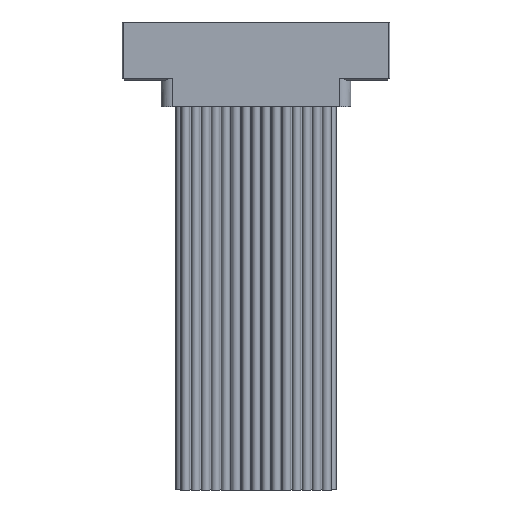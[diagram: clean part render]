
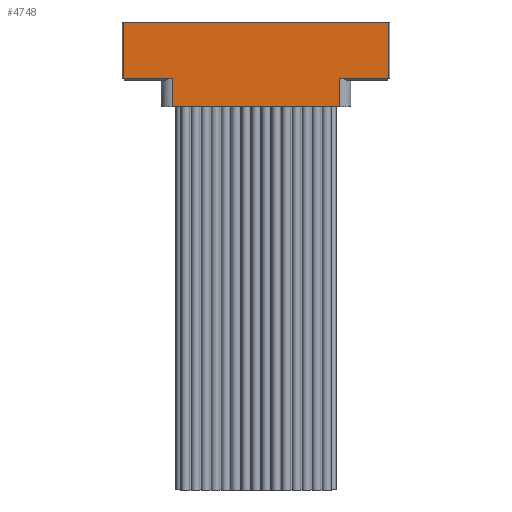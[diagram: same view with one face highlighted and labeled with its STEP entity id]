
A CAD part, front view. The second image highlights one B-rep face of the part: STEP entity #4748.
In plain terms, the highlighted planar face has unit normal (0, -1, 0).
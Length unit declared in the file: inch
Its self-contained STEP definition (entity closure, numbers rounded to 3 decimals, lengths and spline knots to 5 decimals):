
#612 = DIRECTION ( 'NONE',  ( -1., 0., 0. ) ) ;
#613 = CARTESIAN_POINT ( 'NONE',  ( 0.6625, -0.13, 0.235 ) ) ;
#1099 = DIRECTION ( 'NONE',  ( 0., 0., 1. ) ) ;
#1100 = DIRECTION ( 'NONE',  ( 0., -1., 0. ) ) ;
#1103 = PLANE ( 'NONE',  #15710 ) ;
#1106 = CARTESIAN_POINT ( 'NONE',  ( 0.6625, -0.13, 0.235 ) ) ;
#2554 = CARTESIAN_POINT ( 'NONE',  ( 0.414, -0.13, -0.184 ) ) ;
#2556 = CARTESIAN_POINT ( 'NONE',  ( -0.6575, -0.13, -0.053 ) ) ;
#2559 = DIRECTION ( 'NONE',  ( 0., 0., -1. ) ) ;
#2560 = CARTESIAN_POINT ( 'NONE',  ( 0.414, -0.13, -1.57829 ) ) ;
#2561 = DIRECTION ( 'NONE',  ( 0., 0., 1. ) ) ;
#2562 = CARTESIAN_POINT ( 'NONE',  ( 0.6625, -0.13, -0.043 ) ) ;
#2563 = DIRECTION ( 'NONE',  ( 1., 0., 0. ) ) ;
#2564 = CARTESIAN_POINT ( 'NONE',  ( 0.6575, -0.13, 0.235 ) ) ;
#2565 = DIRECTION ( 'NONE',  ( 0., 0., 1. ) ) ;
#2566 = CARTESIAN_POINT ( 'NONE',  ( 0.6625, -0.13, -0.043 ) ) ;
#2567 = DIRECTION ( 'NONE',  ( 1., 0., 0. ) ) ;
#2568 = CARTESIAN_POINT ( 'NONE',  ( -0.414, -0.13, -1.57829 ) ) ;
#2570 = DIRECTION ( 'NONE',  ( 0., 0., 1. ) ) ;
#2571 = DIRECTION ( 'NONE',  ( 1., 0., 0. ) ) ;
#3928 = CARTESIAN_POINT ( 'NONE',  ( 0.6575, -0.13, -0.043 ) ) ;
#3932 = CARTESIAN_POINT ( 'NONE',  ( -0.414, -0.13, -0.184 ) ) ;
#3934 = CARTESIAN_POINT ( 'NONE',  ( -0.6575, -0.13, -0.043 ) ) ;
#3938 = CARTESIAN_POINT ( 'NONE',  ( 0.414, -0.13, -0.184 ) ) ;
#3941 = CARTESIAN_POINT ( 'NONE',  ( -0.414, -0.13, -0.043 ) ) ;
#4064 = CARTESIAN_POINT ( 'NONE',  ( 0.414, -0.13, -0.043 ) ) ;
#4130 = CARTESIAN_POINT ( 'NONE',  ( -0.6575, -0.13, 0.235 ) ) ;
#4146 = CARTESIAN_POINT ( 'NONE',  ( 0.6575, -0.13, 0.235 ) ) ;
#4748 = ADVANCED_FACE ( 'NONE', ( #20283 ), #1103, .T. ) ;
#8518 = EDGE_CURVE ( 'NONE', #26964, #26951, #22999, .T. ) ;
#8684 = EDGE_CURVE ( 'NONE', #26951, #26801, #23244, .T. ) ;
#8685 = EDGE_CURVE ( 'NONE', #26803, #26901, #23246, .T. ) ;
#8686 = EDGE_CURVE ( 'NONE', #26901, #26798, #23249, .T. ) ;
#8687 = EDGE_CURVE ( 'NONE', #26798, #26964, #23251, .T. ) ;
#8688 = EDGE_CURVE ( 'NONE', #26801, #26805, #23253, .T. ) ;
#8689 = EDGE_CURVE ( 'NONE', #26800, #26805, #23255, .T. ) ;
#8690 = EDGE_CURVE ( 'NONE', #26800, #26803, #23248, .T. ) ;
#15710 = AXIS2_PLACEMENT_3D ( 'NONE', #1106, #1100, #1099 ) ;
#20283 = FACE_OUTER_BOUND ( 'NONE', #24701, .T. ) ;
#22999 = LINE ( 'NONE', #613, #23001 ) ;
#23001 = VECTOR ( 'NONE', #612, 39.37008 ) ;
#23244 = LINE ( 'NONE', #2556, #23247 ) ;
#23246 = LINE ( 'NONE', #2560, #23250 ) ;
#23247 = VECTOR ( 'NONE', #2559, 39.37008 ) ;
#23248 = LINE ( 'NONE', #2554, #23259 ) ;
#23249 = LINE ( 'NONE', #2562, #23252 ) ;
#23250 = VECTOR ( 'NONE', #2561, 39.37008 ) ;
#23251 = LINE ( 'NONE', #2564, #23254 ) ;
#23252 = VECTOR ( 'NONE', #2563, 39.37008 ) ;
#23253 = LINE ( 'NONE', #2566, #23256 ) ;
#23254 = VECTOR ( 'NONE', #2565, 39.37008 ) ;
#23255 = LINE ( 'NONE', #2568, #23257 ) ;
#23256 = VECTOR ( 'NONE', #2567, 39.37008 ) ;
#23257 = VECTOR ( 'NONE', #2570, 39.37008 ) ;
#23259 = VECTOR ( 'NONE', #2571, 39.37008 ) ;
#23733 = ORIENTED_EDGE ( 'NONE', *, *, #8685, .T. ) ;
#23734 = ORIENTED_EDGE ( 'NONE', *, *, #8686, .T. ) ;
#23735 = ORIENTED_EDGE ( 'NONE', *, *, #8687, .T. ) ;
#23736 = ORIENTED_EDGE ( 'NONE', *, *, #8518, .T. ) ;
#23737 = ORIENTED_EDGE ( 'NONE', *, *, #8684, .T. ) ;
#23738 = ORIENTED_EDGE ( 'NONE', *, *, #8688, .T. ) ;
#23739 = ORIENTED_EDGE ( 'NONE', *, *, #8689, .F. ) ;
#23740 = ORIENTED_EDGE ( 'NONE', *, *, #8690, .T. ) ;
#24701 = EDGE_LOOP ( 'NONE', ( #23733, #23734, #23735, #23736, #23737, #23738, #23739, #23740 ) ) ;
#26798 = VERTEX_POINT ( 'NONE', #3928 ) ;
#26800 = VERTEX_POINT ( 'NONE', #3932 ) ;
#26801 = VERTEX_POINT ( 'NONE', #3934 ) ;
#26803 = VERTEX_POINT ( 'NONE', #3938 ) ;
#26805 = VERTEX_POINT ( 'NONE', #3941 ) ;
#26901 = VERTEX_POINT ( 'NONE', #4064 ) ;
#26951 = VERTEX_POINT ( 'NONE', #4130 ) ;
#26964 = VERTEX_POINT ( 'NONE', #4146 ) ;
